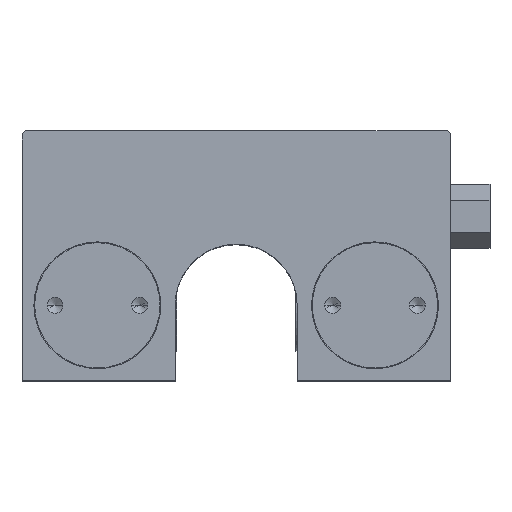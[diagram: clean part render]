
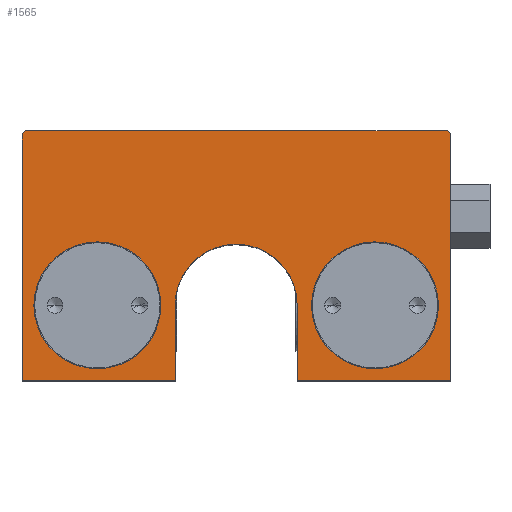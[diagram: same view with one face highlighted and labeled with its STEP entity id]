
A CAD part, top view. The second image highlights one B-rep face of the part: STEP entity #1565.
In plain terms, the highlighted planar face has unit normal (0, 0, 1).
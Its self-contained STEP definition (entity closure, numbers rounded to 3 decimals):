
#969 = VERTEX_POINT( '', #2711 );
#981 = EDGE_CURVE( '', #1041, #1659, #2725, .T. );
#993 = EDGE_CURVE( '', #1985, #1385, #2739, .T. );
#1041 = VERTEX_POINT( '', #2795 );
#1055 = EDGE_CURVE( '', #2277, #1533, #2811, .T. );
#1185 = EDGE_CURVE( '', #2529, #1369, #2964, .T. );
#1189 = EDGE_CURVE( '', #1603, #1985, #2968, .T. );
#1233 = EDGE_CURVE( '', #1369, #1745, #3019, .T. );
#1283 = VERTEX_POINT( '', #3080 );
#1369 = VERTEX_POINT( '', #3178 );
#1385 = VERTEX_POINT( '', #3196 );
#1397 = VERTEX_POINT( '', #3209 );
#1415 = EDGE_CURVE( '', #1745, #1603, #3228, .T. );
#1533 = VERTEX_POINT( '', #3356 );
#1565 = ADVANCED_FACE( '', ( #3398, #3399, #3400 ), #3401, .F. );
#1595 = EDGE_CURVE( '', #1397, #2529, #3435, .T. );
#1603 = VERTEX_POINT( '', #3445 );
#1659 = VERTEX_POINT( '', #3504 );
#1745 = VERTEX_POINT( '', #3600 );
#1845 = EDGE_CURVE( '', #969, #2119, #3710, .T. );
#1883 = EDGE_CURVE( '', #1659, #1041, #3751, .T. );
#1903 = EDGE_CURVE( '', #1533, #1283, #3774, .T. );
#1985 = VERTEX_POINT( '', #3868 );
#2119 = VERTEX_POINT( '', #4012 );
#2223 = EDGE_CURVE( '', #1385, #2277, #4134, .T. );
#2277 = VERTEX_POINT( '', #4190 );
#2301 = EDGE_CURVE( '', #1283, #1397, #4219, .T. );
#2473 = EDGE_CURVE( '', #2119, #969, #4410, .T. );
#2529 = VERTEX_POINT( '', #4474 );
#2711 = CARTESIAN_POINT( '', ( -25.5, 9.5, 18.5 ) );
#2725 = CIRCLE( '', #4739, 8. );
#2739 = LINE( '', #4758, #4759 );
#2795 = CARTESIAN_POINT( '', ( 9.5, 9.5, 18.5 ) );
#2811 = LINE( '', #4852, #4853 );
#2964 = LINE( '', #5063, #5064 );
#2968 = LINE( '', #5071, #5072 );
#3019 = LINE( '', #5135, #5136 );
#3080 = CARTESIAN_POINT( '', ( 7.7, 9.5, 18.5 ) );
#3178 = CARTESIAN_POINT( '', ( -27., 0., 18.5 ) );
#3196 = CARTESIAN_POINT( '', ( 27., 31.1, 18.5 ) );
#3209 = CARTESIAN_POINT( '', ( -7.7, 9.5, 18.5 ) );
#3228 = LINE( '', #5415, #5416 );
#3356 = CARTESIAN_POINT( '', ( 7.7, 0., 18.5 ) );
#3398 = FACE_BOUND( '', #5652, .T. );
#3399 = FACE_BOUND( '', #5653, .T. );
#3400 = FACE_OUTER_BOUND( '', #5654, .T. );
#3401 = PLANE( '', #5655 );
#3435 = LINE( '', #5695, #5696 );
#3445 = CARTESIAN_POINT( '', ( -26.6, 31.5, 18.5 ) );
#3504 = CARTESIAN_POINT( '', ( 25.5, 9.5, 18.5 ) );
#3600 = CARTESIAN_POINT( '', ( -27., 31.1, 18.5 ) );
#3710 = CIRCLE( '', #6110, 8. );
#3751 = CIRCLE( '', #6162, 8. );
#3774 = LINE( '', #6196, #6197 );
#3868 = CARTESIAN_POINT( '', ( 26.6, 31.5, 18.5 ) );
#4012 = CARTESIAN_POINT( '', ( -9.5, 9.5, 18.5 ) );
#4134 = LINE( '', #6759, #6760 );
#4190 = CARTESIAN_POINT( '', ( 27., 0., 18.5 ) );
#4219 = CIRCLE( '', #6879, 7.7 );
#4410 = CIRCLE( '', #7136, 8. );
#4474 = CARTESIAN_POINT( '', ( -7.7, 0., 18.5 ) );
#4739 = AXIS2_PLACEMENT_3D( '', #7478, #7479, #7480 );
#4758 = CARTESIAN_POINT( '', ( 26.6, 31.5, 18.5 ) );
#4759 = VECTOR( '', #7499, 1. );
#4852 = CARTESIAN_POINT( '', ( 27., 0., 18.5 ) );
#4853 = VECTOR( '', #7620, 1. );
#5063 = CARTESIAN_POINT( '', ( -7.7, 0., 18.5 ) );
#5064 = VECTOR( '', #7816, 1. );
#5071 = CARTESIAN_POINT( '', ( -26.6, 31.5, 18.5 ) );
#5072 = VECTOR( '', #7818, 1. );
#5135 = CARTESIAN_POINT( '', ( -27., 0., 18.5 ) );
#5136 = VECTOR( '', #7882, 1. );
#5415 = CARTESIAN_POINT( '', ( -27., 31.1, 18.5 ) );
#5416 = VECTOR( '', #8119, 1. );
#5652 = EDGE_LOOP( '', ( #8328, #8329 ) );
#5653 = EDGE_LOOP( '', ( #8330, #8331 ) );
#5654 = EDGE_LOOP( '', ( #8332, #8333, #8334, #8335, #8336, #8337, #8338, #8339, #8340, #8341 ) );
#5655 = AXIS2_PLACEMENT_3D( '', #8342, #8343, #8344 );
#5695 = CARTESIAN_POINT( '', ( -7.7, 9.5, 18.5 ) );
#5696 = VECTOR( '', #8377, 1. );
#6110 = AXIS2_PLACEMENT_3D( '', #8665, #8666, #8667 );
#6162 = AXIS2_PLACEMENT_3D( '', #8703, #8704, #8705 );
#6196 = CARTESIAN_POINT( '', ( 7.7, 0., 18.5 ) );
#6197 = VECTOR( '', #8735, 1. );
#6759 = CARTESIAN_POINT( '', ( 27., 31.1, 18.5 ) );
#6760 = VECTOR( '', #9135, 1. );
#6879 = AXIS2_PLACEMENT_3D( '', #9235, #9236, #9237 );
#7136 = AXIS2_PLACEMENT_3D( '', #9437, #9438, #9439 );
#7478 = CARTESIAN_POINT( '', ( 17.5, 9.5, 18.5 ) );
#7479 = DIRECTION( '', ( 0., 0., -1. ) );
#7480 = DIRECTION( '', ( -1., 0., 0. ) );
#7499 = DIRECTION( '', ( 0.707, -0.707, 0. ) );
#7620 = DIRECTION( '', ( -1., 0., 0. ) );
#7816 = DIRECTION( '', ( -1., 0., 0. ) );
#7818 = DIRECTION( '', ( 1., 0., 0. ) );
#7882 = DIRECTION( '', ( 0., 1., 0. ) );
#8119 = DIRECTION( '', ( 0.707, 0.707, 0. ) );
#8328 = ORIENTED_EDGE( '', *, *, #2473, .T. );
#8329 = ORIENTED_EDGE( '', *, *, #1845, .T. );
#8330 = ORIENTED_EDGE( '', *, *, #1883, .T. );
#8331 = ORIENTED_EDGE( '', *, *, #981, .T. );
#8332 = ORIENTED_EDGE( '', *, *, #1903, .F. );
#8333 = ORIENTED_EDGE( '', *, *, #1055, .F. );
#8334 = ORIENTED_EDGE( '', *, *, #2223, .F. );
#8335 = ORIENTED_EDGE( '', *, *, #993, .F. );
#8336 = ORIENTED_EDGE( '', *, *, #1189, .F. );
#8337 = ORIENTED_EDGE( '', *, *, #1415, .F. );
#8338 = ORIENTED_EDGE( '', *, *, #1233, .F. );
#8339 = ORIENTED_EDGE( '', *, *, #1185, .F. );
#8340 = ORIENTED_EDGE( '', *, *, #1595, .F. );
#8341 = ORIENTED_EDGE( '', *, *, #2301, .F. );
#8342 = CARTESIAN_POINT( '', ( 0., 0., 18.5 ) );
#8343 = DIRECTION( '', ( 0., 0., -1. ) );
#8344 = DIRECTION( '', ( -1., 0., 0. ) );
#8377 = DIRECTION( '', ( 0., -1., 0. ) );
#8665 = CARTESIAN_POINT( '', ( -17.5, 9.5, 18.5 ) );
#8666 = DIRECTION( '', ( 0., 0., -1. ) );
#8667 = DIRECTION( '', ( -1., 0., 0. ) );
#8703 = CARTESIAN_POINT( '', ( 17.5, 9.5, 18.5 ) );
#8704 = DIRECTION( '', ( 0., 0., -1. ) );
#8705 = DIRECTION( '', ( -1., 0., 0. ) );
#8735 = DIRECTION( '', ( 0., 1., 0. ) );
#9135 = DIRECTION( '', ( 0., -1., 0. ) );
#9235 = CARTESIAN_POINT( '', ( 0., 9.5, 18.5 ) );
#9236 = DIRECTION( '', ( 0., 0., 1. ) );
#9237 = DIRECTION( '', ( 1., 0., 0. ) );
#9437 = CARTESIAN_POINT( '', ( -17.5, 9.5, 18.5 ) );
#9438 = DIRECTION( '', ( 0., 0., -1. ) );
#9439 = DIRECTION( '', ( -1., 0., 0. ) );
